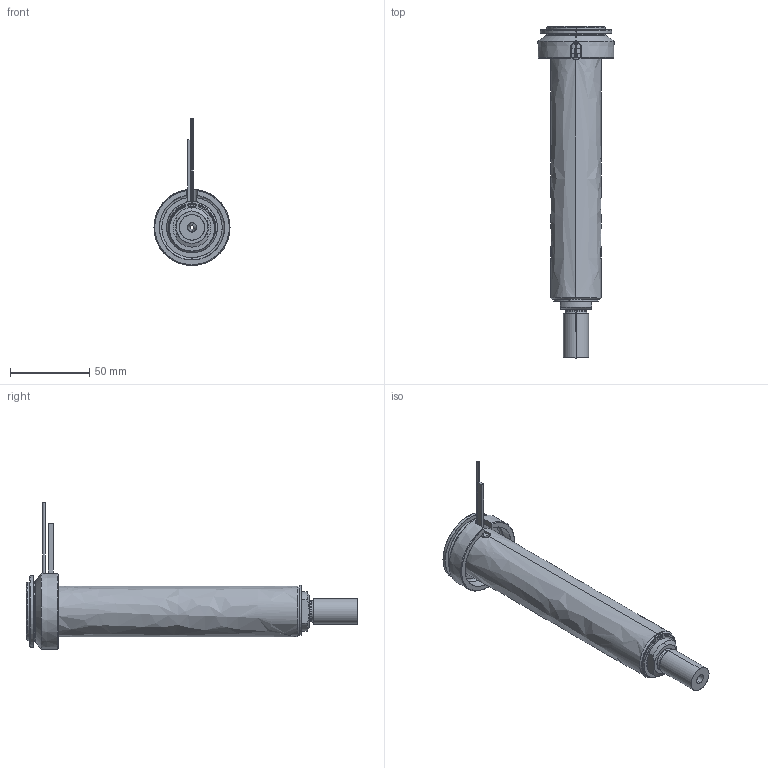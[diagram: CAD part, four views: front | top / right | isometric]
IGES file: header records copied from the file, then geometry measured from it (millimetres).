
Start section: SolidWorks IGES file using analytic representation for surfaces
Global section: file name: C:\Documents and Settings\ws-20\Desktop\TEMPORANEA\UGBE5004-M-A-P-3 [Ød-2.5 P-25 ØC-12].IGS; native system: SolidWorks 2012; preprocessor: SolidWorks 2012; author: ws-20; date: 120306.145841; units: millimetre
Bounding box: 48 x 209.25 x 92.62 mm (x, y, z)
Surface area: 66697.3 mm2 (no closed solid volume)
Topology: 0 solids, 0 shells, 106 faces, 2018 edges, 2018 vertices
Faces by surface type: revolution 61, bspline 45
